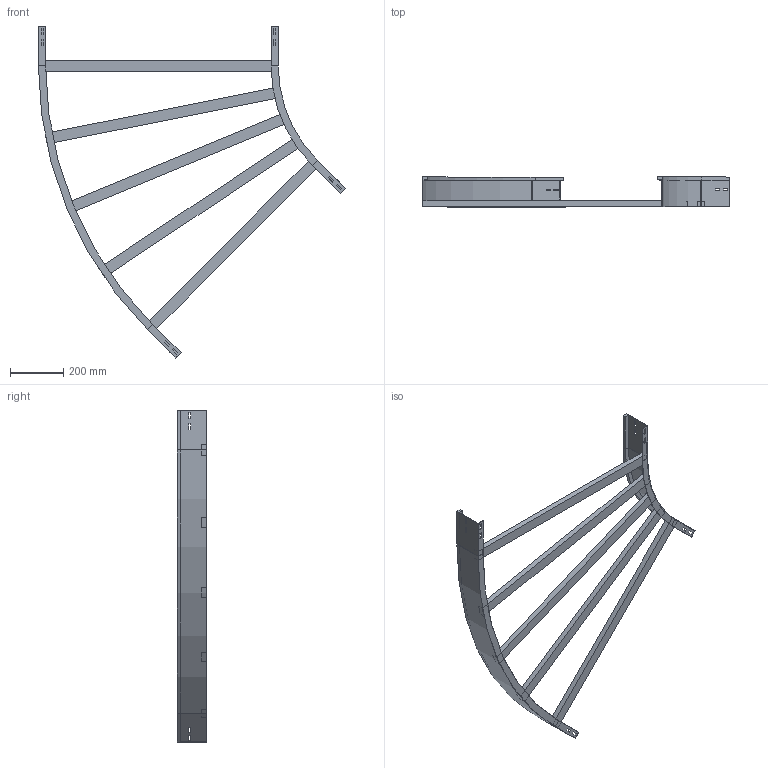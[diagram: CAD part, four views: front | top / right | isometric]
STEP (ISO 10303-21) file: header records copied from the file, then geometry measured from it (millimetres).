
FILE_DESCRIPTION (( 'STEP AP214' ), '1' );
FILE_NAME ('11B5J900.step', '2025-02-21T15:14:03', ( '' ), ( '' ), 'SwSTEP 2.0', 'SolidWorks 2023', '' );
FILE_SCHEMA (( 'AUTOMOTIVE_DESIGN' ));
Length unit declared in the file: millimetre
Products named in the file (4): TRAVERSINO_900; A2_LONGH.ESTERNO 45°_H112.5_R500+900; A2_LONGH.INTERNO 45°_H112.5_R500; 11B5J900
Assembly tree (7 placements, depth 2):
  11B5J900
    A2_LONGH.INTERNO 45°_H112.5_R500
    A2_LONGH.ESTERNO 45°_H112.5_R500+900
    TRAVERSINO_900  x5
Bounding box: 1152.51 x 112.5 x 1246.02 mm (x, y, z)
Volume: 4600955.8 mm3; surface area: 1199667.8 mm2
Topology: 7 solids, 7 shells, 146 faces, 364 edges, 232 vertices
Faces by surface type: plane 138, cylinder 8
Entity records: 3837 total; most frequent: CARTESIAN_POINT 648, ORIENTED_EDGE 632, DIRECTION 596, EDGE_CURVE 316, VECTOR 300, LINE 300, VERTEX_POINT 200, EDGE_LOOP 154
